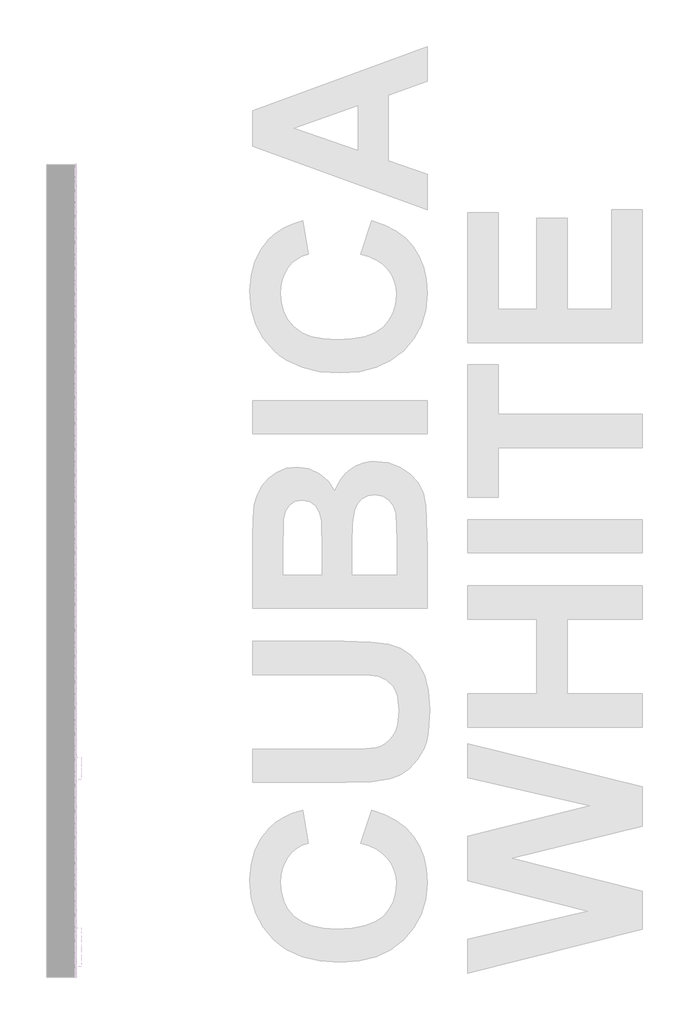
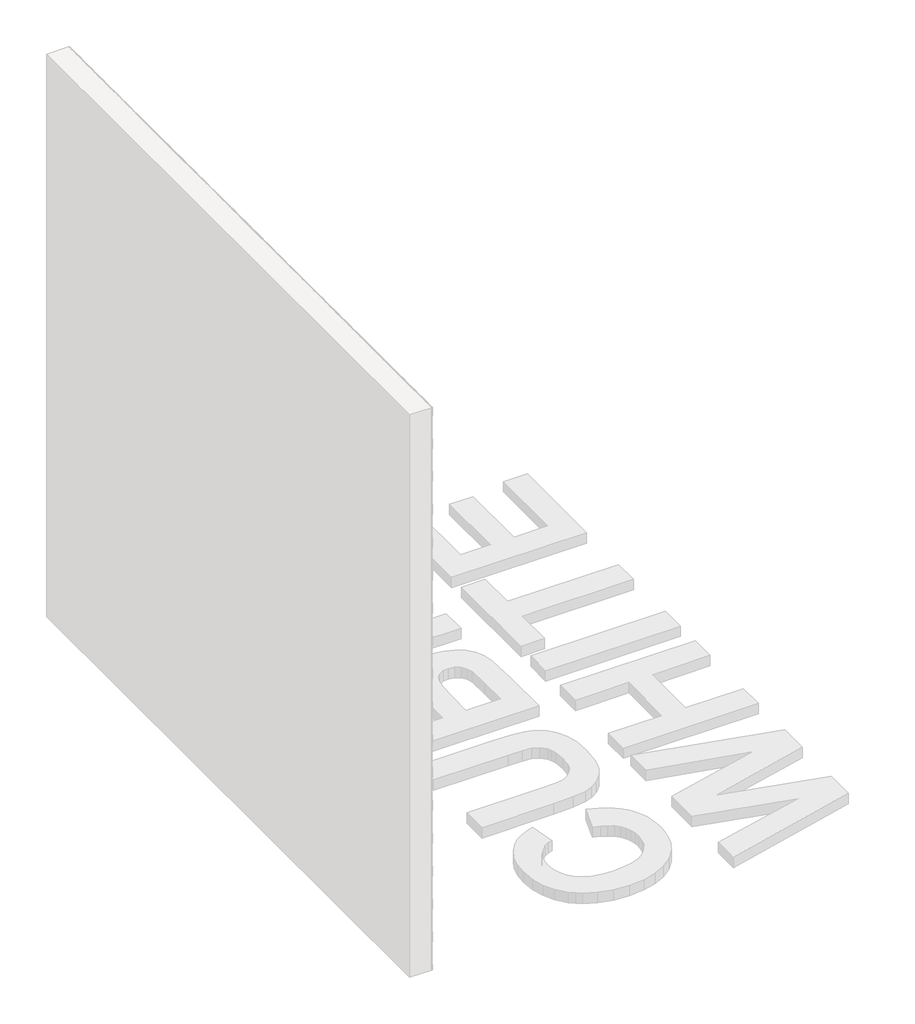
# One storey, part 118 of 121: 144 proxies.
"""IFC4 building model written with IfcOpenShell, lengths in millimetres."""

from ifc_helpers import new_model, si_unit, origin, place, context, project, spatial, transform, mapped, element, save
from components import generic_models_b2b2c5c1, generic_models_9bf73f6f, generic_models_5d175859, generic_models_0bb79e7c

model = new_model("IFC4")

# Units and contexts
model_context = context("Model", 3, world=origin())
ifc_project = project(units=[si_unit("LENGTHUNIT", "METRE", prefix="MILLI")], contexts=[model_context])

# Site, building, storey
site = spatial("IfcSite", under=ifc_project)
building = spatial("IfcBuilding", under=site)
storey = spatial("IfcBuildingStorey", under=building, Name="PORTOBELLO - SHOWROOM", Elevation=0.0)

# Proxies
placement = place(None, origin())
generic_models_shape = generic_models_b2b2c5c1(model_context)
element("IfcBuildingElementProxy", 1, Name="PBSHOP - CUBICA WHITE 4,8X8,3 : CUBICA WHITE - POSIÇÃO 01", ObjectType="PBSHOP - CUBICA WHITE 4,8X8,3 : CUBICA WHITE - POSIÇÃO 01", at=placement, inside=storey, context=model_context, shape_type="MappedRepresentation", body=[
    mapped(generic_models_shape, transform((150369.5341846, 21058.7527651, 1697.0495727), x_axis=(0.0, 1.0, 0.0), y_axis=(0.0, 0.0, 1.0), z_axis=(1.0, 0.0, 0.0))),
])
element("IfcBuildingElementProxy", 2, Name="PBSHOP - CUBICA WHITE 4,8X8,3 : CUBICA WHITE - POSIÇÃO 01", ObjectType="PBSHOP - CUBICA WHITE 4,8X8,3 : CUBICA WHITE - POSIÇÃO 01", at=placement, inside=storey, context=model_context, shape_type="MappedRepresentation", body=[
    mapped(generic_models_shape, transform((150369.5341846, 21149.5920343, 1697.0495727), x_axis=(0.0, 1.0, 0.0), y_axis=(0.0, 0.0, 1.0), z_axis=(1.0, 0.0, 0.0))),
])
element("IfcBuildingElementProxy", 3, Name="PBSHOP - CUBICA WHITE 4,8X8,3 : CUBICA WHITE - POSIÇÃO 01", ObjectType="PBSHOP - CUBICA WHITE 4,8X8,3 : CUBICA WHITE - POSIÇÃO 01", at=placement, inside=storey, context=model_context, shape_type="MappedRepresentation", body=[
    mapped(generic_models_shape, transform((150369.5341846, 21240.4313036, 1697.0495727), x_axis=(0.0, 1.0, 0.0), y_axis=(0.0, 0.0, 1.0), z_axis=(1.0, 0.0, 0.0))),
])
element("IfcBuildingElementProxy", 4, Name="PBSHOP - CUBICA WHITE 4,8X8,3 : CUBICA WHITE - POSIÇÃO 01", ObjectType="PBSHOP - CUBICA WHITE 4,8X8,3 : CUBICA WHITE - POSIÇÃO 01", at=placement, inside=storey, context=model_context, shape_type="MappedRepresentation", body=[
    mapped(generic_models_shape, transform((150369.5341846, 21331.2705728, 1697.0495727), x_axis=(0.0, 1.0, 0.0), y_axis=(0.0, 0.0, 1.0), z_axis=(1.0, 0.0, 0.0))),
])
element("IfcBuildingElementProxy", 5, Name="PBSHOP - CUBICA WHITE 4,8X8,3 : CUBICA WHITE - POSIÇÃO 01", ObjectType="PBSHOP - CUBICA WHITE 4,8X8,3 : CUBICA WHITE - POSIÇÃO 01", at=placement, inside=storey, context=model_context, shape_type="MappedRepresentation", body=[
    mapped(generic_models_shape, transform((150369.5341846, 21422.109842, 1697.0495727), x_axis=(0.0, 1.0, 0.0), y_axis=(0.0, 0.0, 1.0), z_axis=(1.0, 0.0, 0.0))),
])
element("IfcBuildingElementProxy", 6, Name="PBSHOP - CUBICA WHITE 4,8X8,3 : CUBICA WHITE - POSIÇÃO 01", ObjectType="PBSHOP - CUBICA WHITE 4,8X8,3 : CUBICA WHITE - POSIÇÃO 01", at=placement, inside=storey, context=model_context, shape_type="MappedRepresentation", body=[
    mapped(generic_models_shape, transform((150369.5341846, 21512.9491113, 1697.0495727), x_axis=(0.0, 1.0, 0.0), y_axis=(0.0, 0.0, 1.0), z_axis=(1.0, 0.0, 0.0))),
])
element("IfcBuildingElementProxy", 7, Name="PBSHOP - CUBICA WHITE 4,8X8,3 : CUBICA WHITE - POSIÇÃO 01", ObjectType="PBSHOP - CUBICA WHITE 4,8X8,3 : CUBICA WHITE - POSIÇÃO 01", at=placement, inside=storey, context=model_context, shape_type="MappedRepresentation", body=[
    mapped(generic_models_shape, transform((150369.5341846, 21603.7883805, 1697.0495727), x_axis=(0.0, 1.0, 0.0), y_axis=(0.0, 0.0, 1.0), z_axis=(1.0, 0.0, 0.0))),
])
element("IfcBuildingElementProxy", 8, Name="PBSHOP - CUBICA WHITE 4,8X8,3 : CUBICA WHITE - POSIÇÃO 01", ObjectType="PBSHOP - CUBICA WHITE 4,8X8,3 : CUBICA WHITE - POSIÇÃO 01", at=placement, inside=storey, context=model_context, shape_type="MappedRepresentation", body=[
    mapped(generic_models_shape, transform((150369.5341846, 21694.6276498, 1697.0495727), x_axis=(0.0, 1.0, 0.0), y_axis=(0.0, 0.0, 1.0), z_axis=(1.0, 0.0, 0.0))),
])
element("IfcBuildingElementProxy", 9, Name="PBSHOP - CUBICA WHITE 4,8X8,3 : CUBICA WHITE - POSIÇÃO 01", ObjectType="PBSHOP - CUBICA WHITE 4,8X8,3 : CUBICA WHITE - POSIÇÃO 01", at=placement, inside=storey, context=model_context, shape_type="MappedRepresentation", body=[
    mapped(generic_models_shape, transform((150369.5341846, 21785.466919, 1697.0495727), x_axis=(0.0, 1.0, 0.0), y_axis=(0.0, 0.0, 1.0), z_axis=(1.0, 0.0, 0.0))),
])
element("IfcBuildingElementProxy", 10, Name="PBSHOP - CUBICA WHITE 4,8X8,3 : CUBICA WHITE - POSIÇÃO 01", ObjectType="PBSHOP - CUBICA WHITE 4,8X8,3 : CUBICA WHITE - POSIÇÃO 01", at=placement, inside=storey, context=model_context, shape_type="MappedRepresentation", body=[
    mapped(generic_models_shape, transform((150369.5341846, 21876.3061883, 1697.0495727), x_axis=(0.0, 1.0, 0.0), y_axis=(0.0, 0.0, 1.0), z_axis=(1.0, 0.0, 0.0))),
])
element("IfcBuildingElementProxy", 11, Name="PBSHOP - CUBICA WHITE 4,8X8,3 : CUBICA WHITE - POSIÇÃO 01", ObjectType="PBSHOP - CUBICA WHITE 4,8X8,3 : CUBICA WHITE - POSIÇÃO 01", at=placement, inside=storey, context=model_context, shape_type="MappedRepresentation", body=[
    mapped(generic_models_shape, transform((150369.5341846, 21967.1454575, 1697.0495727), x_axis=(0.0, 1.0, 0.0), y_axis=(0.0, 0.0, 1.0), z_axis=(1.0, 0.0, 0.0))),
])
element("IfcBuildingElementProxy", 12, Name="PBSHOP - CUBICA WHITE 4,8X8,3 : CUBICA WHITE - POSIÇÃO 01", ObjectType="PBSHOP - CUBICA WHITE 4,8X8,3 : CUBICA WHITE - POSIÇÃO 01", at=placement, inside=storey, context=model_context, shape_type="MappedRepresentation", body=[
    mapped(generic_models_shape, transform((150369.5341846, 21013.3331304, 1775.984211), x_axis=(0.0, 1.0, 0.0), y_axis=(0.0, 0.0, 1.0), z_axis=(1.0, 0.0, 0.0))),
])
element("IfcBuildingElementProxy", 13, Name="PBSHOP - CUBICA WHITE 4,8X8,3 : CUBICA WHITE - POSIÇÃO 01", ObjectType="PBSHOP - CUBICA WHITE 4,8X8,3 : CUBICA WHITE - POSIÇÃO 01", at=placement, inside=storey, context=model_context, shape_type="MappedRepresentation", body=[
    mapped(generic_models_shape, transform((150369.5341846, 21104.1723997, 1775.984211), x_axis=(0.0, 1.0, 0.0), y_axis=(0.0, 0.0, 1.0), z_axis=(1.0, 0.0, 0.0))),
])
element("IfcBuildingElementProxy", 14, Name="PBSHOP - CUBICA WHITE 4,8X8,3 : CUBICA WHITE - POSIÇÃO 01", ObjectType="PBSHOP - CUBICA WHITE 4,8X8,3 : CUBICA WHITE - POSIÇÃO 01", at=placement, inside=storey, context=model_context, shape_type="MappedRepresentation", body=[
    mapped(generic_models_shape, transform((150369.5341846, 21195.0116689, 1775.984211), x_axis=(0.0, 1.0, 0.0), y_axis=(0.0, 0.0, 1.0), z_axis=(1.0, 0.0, 0.0))),
])
element("IfcBuildingElementProxy", 15, Name="PBSHOP - CUBICA WHITE 4,8X8,3 : CUBICA WHITE - POSIÇÃO 01", ObjectType="PBSHOP - CUBICA WHITE 4,8X8,3 : CUBICA WHITE - POSIÇÃO 01", at=placement, inside=storey, context=model_context, shape_type="MappedRepresentation", body=[
    mapped(generic_models_shape, transform((150369.5341846, 21285.8509382, 1775.984211), x_axis=(0.0, 1.0, 0.0), y_axis=(0.0, 0.0, 1.0), z_axis=(1.0, 0.0, 0.0))),
])
element("IfcBuildingElementProxy", 16, Name="PBSHOP - CUBICA WHITE 4,8X8,3 : CUBICA WHITE - POSIÇÃO 01", ObjectType="PBSHOP - CUBICA WHITE 4,8X8,3 : CUBICA WHITE - POSIÇÃO 01", at=placement, inside=storey, context=model_context, shape_type="MappedRepresentation", body=[
    mapped(generic_models_shape, transform((150369.5341846, 21376.6902074, 1775.984211), x_axis=(0.0, 1.0, 0.0), y_axis=(0.0, 0.0, 1.0), z_axis=(1.0, 0.0, 0.0))),
])
element("IfcBuildingElementProxy", 17, Name="PBSHOP - CUBICA WHITE 4,8X8,3 : CUBICA WHITE - POSIÇÃO 01", ObjectType="PBSHOP - CUBICA WHITE 4,8X8,3 : CUBICA WHITE - POSIÇÃO 01", at=placement, inside=storey, context=model_context, shape_type="MappedRepresentation", body=[
    mapped(generic_models_shape, transform((150369.5341846, 21467.5294767, 1775.984211), x_axis=(0.0, 1.0, 0.0), y_axis=(0.0, 0.0, 1.0), z_axis=(1.0, 0.0, 0.0))),
])
element("IfcBuildingElementProxy", 18, Name="PBSHOP - CUBICA WHITE 4,8X8,3 : CUBICA WHITE - POSIÇÃO 01", ObjectType="PBSHOP - CUBICA WHITE 4,8X8,3 : CUBICA WHITE - POSIÇÃO 01", at=placement, inside=storey, context=model_context, shape_type="MappedRepresentation", body=[
    mapped(generic_models_shape, transform((150369.5341846, 21558.3687459, 1775.984211), x_axis=(0.0, 1.0, 0.0), y_axis=(0.0, 0.0, 1.0), z_axis=(1.0, 0.0, 0.0))),
])
element("IfcBuildingElementProxy", 19, Name="PBSHOP - CUBICA WHITE 4,8X8,3 : CUBICA WHITE - POSIÇÃO 01", ObjectType="PBSHOP - CUBICA WHITE 4,8X8,3 : CUBICA WHITE - POSIÇÃO 01", at=placement, inside=storey, context=model_context, shape_type="MappedRepresentation", body=[
    mapped(generic_models_shape, transform((150369.5341846, 21649.2080152, 1775.984211), x_axis=(0.0, 1.0, 0.0), y_axis=(0.0, 0.0, 1.0), z_axis=(1.0, 0.0, 0.0))),
])
element("IfcBuildingElementProxy", 20, Name="PBSHOP - CUBICA WHITE 4,8X8,3 : CUBICA WHITE - POSIÇÃO 01", ObjectType="PBSHOP - CUBICA WHITE 4,8X8,3 : CUBICA WHITE - POSIÇÃO 01", at=placement, inside=storey, context=model_context, shape_type="MappedRepresentation", body=[
    mapped(generic_models_shape, transform((150369.5341846, 21740.0472844, 1775.984211), x_axis=(0.0, 1.0, 0.0), y_axis=(0.0, 0.0, 1.0), z_axis=(1.0, 0.0, 0.0))),
])
element("IfcBuildingElementProxy", 21, Name="PBSHOP - CUBICA WHITE 4,8X8,3 : CUBICA WHITE - POSIÇÃO 01", ObjectType="PBSHOP - CUBICA WHITE 4,8X8,3 : CUBICA WHITE - POSIÇÃO 01", at=placement, inside=storey, context=model_context, shape_type="MappedRepresentation", body=[
    mapped(generic_models_shape, transform((150369.5341846, 21830.8865536, 1775.984211), x_axis=(0.0, 1.0, 0.0), y_axis=(0.0, 0.0, 1.0), z_axis=(1.0, 0.0, 0.0))),
])
element("IfcBuildingElementProxy", 22, Name="PBSHOP - CUBICA WHITE 4,8X8,3 : CUBICA WHITE - POSIÇÃO 01", ObjectType="PBSHOP - CUBICA WHITE 4,8X8,3 : CUBICA WHITE - POSIÇÃO 01", at=placement, inside=storey, context=model_context, shape_type="MappedRepresentation", body=[
    mapped(generic_models_shape, transform((150369.5341846, 21921.7258229, 1775.984211), x_axis=(0.0, 1.0, 0.0), y_axis=(0.0, 0.0, 1.0), z_axis=(1.0, 0.0, 0.0))),
])
element("IfcBuildingElementProxy", 23, Name="PBSHOP - CUBICA WHITE 4,8X8,3 : CUBICA WHITE - POSIÇÃO 01", ObjectType="PBSHOP - CUBICA WHITE 4,8X8,3 : CUBICA WHITE - POSIÇÃO 01", at=placement, inside=storey, context=model_context, shape_type="MappedRepresentation", body=[
    mapped(generic_models_shape, transform((150369.5341846, 21058.7527651, 1854.9188494), x_axis=(0.0, 1.0, 0.0), y_axis=(0.0, 0.0, 1.0), z_axis=(1.0, 0.0, 0.0))),
])
element("IfcBuildingElementProxy", 24, Name="PBSHOP - CUBICA WHITE 4,8X8,3 : CUBICA WHITE - POSIÇÃO 01", ObjectType="PBSHOP - CUBICA WHITE 4,8X8,3 : CUBICA WHITE - POSIÇÃO 01", at=placement, inside=storey, context=model_context, shape_type="MappedRepresentation", body=[
    mapped(generic_models_shape, transform((150369.5341846, 21149.5920343, 1854.9188494), x_axis=(0.0, 1.0, 0.0), y_axis=(0.0, 0.0, 1.0), z_axis=(1.0, 0.0, 0.0))),
])
element("IfcBuildingElementProxy", 25, Name="PBSHOP - CUBICA WHITE 4,8X8,3 : CUBICA WHITE - POSIÇÃO 01", ObjectType="PBSHOP - CUBICA WHITE 4,8X8,3 : CUBICA WHITE - POSIÇÃO 01", at=placement, inside=storey, context=model_context, shape_type="MappedRepresentation", body=[
    mapped(generic_models_shape, transform((150369.5341846, 21240.4313036, 1854.9188494), x_axis=(0.0, 1.0, 0.0), y_axis=(0.0, 0.0, 1.0), z_axis=(1.0, 0.0, 0.0))),
])
element("IfcBuildingElementProxy", 26, Name="PBSHOP - CUBICA WHITE 4,8X8,3 : CUBICA WHITE - POSIÇÃO 01", ObjectType="PBSHOP - CUBICA WHITE 4,8X8,3 : CUBICA WHITE - POSIÇÃO 01", at=placement, inside=storey, context=model_context, shape_type="MappedRepresentation", body=[
    mapped(generic_models_shape, transform((150369.5341846, 21331.2705728, 1854.9188494), x_axis=(0.0, 1.0, 0.0), y_axis=(0.0, 0.0, 1.0), z_axis=(1.0, 0.0, 0.0))),
])
element("IfcBuildingElementProxy", 27, Name="PBSHOP - CUBICA WHITE 4,8X8,3 : CUBICA WHITE - POSIÇÃO 01", ObjectType="PBSHOP - CUBICA WHITE 4,8X8,3 : CUBICA WHITE - POSIÇÃO 01", at=placement, inside=storey, context=model_context, shape_type="MappedRepresentation", body=[
    mapped(generic_models_shape, transform((150369.5341846, 21422.109842, 1854.9188494), x_axis=(0.0, 1.0, 0.0), y_axis=(0.0, 0.0, 1.0), z_axis=(1.0, 0.0, 0.0))),
])
element("IfcBuildingElementProxy", 28, Name="PBSHOP - CUBICA WHITE 4,8X8,3 : CUBICA WHITE - POSIÇÃO 01", ObjectType="PBSHOP - CUBICA WHITE 4,8X8,3 : CUBICA WHITE - POSIÇÃO 01", at=placement, inside=storey, context=model_context, shape_type="MappedRepresentation", body=[
    mapped(generic_models_shape, transform((150369.5341846, 21512.9491113, 1854.9188494), x_axis=(0.0, 1.0, 0.0), y_axis=(0.0, 0.0, 1.0), z_axis=(1.0, 0.0, 0.0))),
])
element("IfcBuildingElementProxy", 29, Name="PBSHOP - CUBICA WHITE 4,8X8,3 : CUBICA WHITE - POSIÇÃO 01", ObjectType="PBSHOP - CUBICA WHITE 4,8X8,3 : CUBICA WHITE - POSIÇÃO 01", at=placement, inside=storey, context=model_context, shape_type="MappedRepresentation", body=[
    mapped(generic_models_shape, transform((150369.5341846, 21603.7883805, 1854.9188494), x_axis=(0.0, 1.0, 0.0), y_axis=(0.0, 0.0, 1.0), z_axis=(1.0, 0.0, 0.0))),
])
element("IfcBuildingElementProxy", 30, Name="PBSHOP - CUBICA WHITE 4,8X8,3 : CUBICA WHITE - POSIÇÃO 01", ObjectType="PBSHOP - CUBICA WHITE 4,8X8,3 : CUBICA WHITE - POSIÇÃO 01", at=placement, inside=storey, context=model_context, shape_type="MappedRepresentation", body=[
    mapped(generic_models_shape, transform((150369.5341846, 21694.6276498, 1854.9188494), x_axis=(0.0, 1.0, 0.0), y_axis=(0.0, 0.0, 1.0), z_axis=(1.0, 0.0, 0.0))),
])
element("IfcBuildingElementProxy", 31, Name="PBSHOP - CUBICA WHITE 4,8X8,3 : CUBICA WHITE - POSIÇÃO 01", ObjectType="PBSHOP - CUBICA WHITE 4,8X8,3 : CUBICA WHITE - POSIÇÃO 01", at=placement, inside=storey, context=model_context, shape_type="MappedRepresentation", body=[
    mapped(generic_models_shape, transform((150369.5341846, 21785.466919, 1854.9188494), x_axis=(0.0, 1.0, 0.0), y_axis=(0.0, 0.0, 1.0), z_axis=(1.0, 0.0, 0.0))),
])
element("IfcBuildingElementProxy", 32, Name="PBSHOP - CUBICA WHITE 4,8X8,3 : CUBICA WHITE - POSIÇÃO 01", ObjectType="PBSHOP - CUBICA WHITE 4,8X8,3 : CUBICA WHITE - POSIÇÃO 01", at=placement, inside=storey, context=model_context, shape_type="MappedRepresentation", body=[
    mapped(generic_models_shape, transform((150369.5341846, 21876.3061883, 1854.9188494), x_axis=(0.0, 1.0, 0.0), y_axis=(0.0, 0.0, 1.0), z_axis=(1.0, 0.0, 0.0))),
])
element("IfcBuildingElementProxy", 33, Name="PBSHOP - CUBICA WHITE 4,8X8,3 : CUBICA WHITE - POSIÇÃO 01", ObjectType="PBSHOP - CUBICA WHITE 4,8X8,3 : CUBICA WHITE - POSIÇÃO 01", at=placement, inside=storey, context=model_context, shape_type="MappedRepresentation", body=[
    mapped(generic_models_shape, transform((150369.5341846, 21967.1454575, 1854.9188494), x_axis=(0.0, 1.0, 0.0), y_axis=(0.0, 0.0, 1.0), z_axis=(1.0, 0.0, 0.0))),
])
element("IfcBuildingElementProxy", 34, Name="PBSHOP - CUBICA WHITE 4,8X8,3 : CUBICA WHITE - POSIÇÃO 01", ObjectType="PBSHOP - CUBICA WHITE 4,8X8,3 : CUBICA WHITE - POSIÇÃO 01", at=placement, inside=storey, context=model_context, shape_type="MappedRepresentation", body=[
    mapped(generic_models_shape, transform((150369.5341846, 21013.3331304, 1933.8534878), x_axis=(0.0, 1.0, 0.0), y_axis=(0.0, 0.0, 1.0), z_axis=(1.0, 0.0, 0.0))),
])
element("IfcBuildingElementProxy", 35, Name="PBSHOP - CUBICA WHITE 4,8X8,3 : CUBICA WHITE - POSIÇÃO 01", ObjectType="PBSHOP - CUBICA WHITE 4,8X8,3 : CUBICA WHITE - POSIÇÃO 01", at=placement, inside=storey, context=model_context, shape_type="MappedRepresentation", body=[
    mapped(generic_models_shape, transform((150369.5341846, 21104.1723997, 1933.8534878), x_axis=(0.0, 1.0, 0.0), y_axis=(0.0, 0.0, 1.0), z_axis=(1.0, 0.0, 0.0))),
])
element("IfcBuildingElementProxy", 36, Name="PBSHOP - CUBICA WHITE 4,8X8,3 : CUBICA WHITE - POSIÇÃO 01", ObjectType="PBSHOP - CUBICA WHITE 4,8X8,3 : CUBICA WHITE - POSIÇÃO 01", at=placement, inside=storey, context=model_context, shape_type="MappedRepresentation", body=[
    mapped(generic_models_shape, transform((150369.5341846, 21195.0116689, 1933.8534878), x_axis=(0.0, 1.0, 0.0), y_axis=(0.0, 0.0, 1.0), z_axis=(1.0, 0.0, 0.0))),
])
element("IfcBuildingElementProxy", 37, Name="PBSHOP - CUBICA WHITE 4,8X8,3 : CUBICA WHITE - POSIÇÃO 01", ObjectType="PBSHOP - CUBICA WHITE 4,8X8,3 : CUBICA WHITE - POSIÇÃO 01", at=placement, inside=storey, context=model_context, shape_type="MappedRepresentation", body=[
    mapped(generic_models_shape, transform((150369.5341846, 21285.8509382, 1933.8534878), x_axis=(0.0, 1.0, 0.0), y_axis=(0.0, 0.0, 1.0), z_axis=(1.0, 0.0, 0.0))),
])
element("IfcBuildingElementProxy", 38, Name="PBSHOP - CUBICA WHITE 4,8X8,3 : CUBICA WHITE - POSIÇÃO 01", ObjectType="PBSHOP - CUBICA WHITE 4,8X8,3 : CUBICA WHITE - POSIÇÃO 01", at=placement, inside=storey, context=model_context, shape_type="MappedRepresentation", body=[
    mapped(generic_models_shape, transform((150369.5341846, 21376.6902074, 1933.8534878), x_axis=(0.0, 1.0, 0.0), y_axis=(0.0, 0.0, 1.0), z_axis=(1.0, 0.0, 0.0))),
])
element("IfcBuildingElementProxy", 39, Name="PBSHOP - CUBICA WHITE 4,8X8,3 : CUBICA WHITE - POSIÇÃO 01", ObjectType="PBSHOP - CUBICA WHITE 4,8X8,3 : CUBICA WHITE - POSIÇÃO 01", at=placement, inside=storey, context=model_context, shape_type="MappedRepresentation", body=[
    mapped(generic_models_shape, transform((150369.5341846, 21467.5294767, 1933.8534878), x_axis=(0.0, 1.0, 0.0), y_axis=(0.0, 0.0, 1.0), z_axis=(1.0, 0.0, 0.0))),
])
element("IfcBuildingElementProxy", 40, Name="PBSHOP - CUBICA WHITE 4,8X8,3 : CUBICA WHITE - POSIÇÃO 01", ObjectType="PBSHOP - CUBICA WHITE 4,8X8,3 : CUBICA WHITE - POSIÇÃO 01", at=placement, inside=storey, context=model_context, shape_type="MappedRepresentation", body=[
    mapped(generic_models_shape, transform((150369.5341846, 21558.3687459, 1933.8534878), x_axis=(0.0, 1.0, 0.0), y_axis=(0.0, 0.0, 1.0), z_axis=(1.0, 0.0, 0.0))),
])
element("IfcBuildingElementProxy", 41, Name="PBSHOP - CUBICA WHITE 4,8X8,3 : CUBICA WHITE - POSIÇÃO 01", ObjectType="PBSHOP - CUBICA WHITE 4,8X8,3 : CUBICA WHITE - POSIÇÃO 01", at=placement, inside=storey, context=model_context, shape_type="MappedRepresentation", body=[
    mapped(generic_models_shape, transform((150369.5341846, 21649.2080152, 1933.8534878), x_axis=(0.0, 1.0, 0.0), y_axis=(0.0, 0.0, 1.0), z_axis=(1.0, 0.0, 0.0))),
])
element("IfcBuildingElementProxy", 42, Name="PBSHOP - CUBICA WHITE 4,8X8,3 : CUBICA WHITE - POSIÇÃO 01", ObjectType="PBSHOP - CUBICA WHITE 4,8X8,3 : CUBICA WHITE - POSIÇÃO 01", at=placement, inside=storey, context=model_context, shape_type="MappedRepresentation", body=[
    mapped(generic_models_shape, transform((150369.5341846, 21740.0472844, 1933.8534878), x_axis=(0.0, 1.0, 0.0), y_axis=(0.0, 0.0, 1.0), z_axis=(1.0, 0.0, 0.0))),
])
element("IfcBuildingElementProxy", 43, Name="PBSHOP - CUBICA WHITE 4,8X8,3 : CUBICA WHITE - POSIÇÃO 01", ObjectType="PBSHOP - CUBICA WHITE 4,8X8,3 : CUBICA WHITE - POSIÇÃO 01", at=placement, inside=storey, context=model_context, shape_type="MappedRepresentation", body=[
    mapped(generic_models_shape, transform((150369.5341846, 21830.8865536, 1933.8534878), x_axis=(0.0, 1.0, 0.0), y_axis=(0.0, 0.0, 1.0), z_axis=(1.0, 0.0, 0.0))),
])
element("IfcBuildingElementProxy", 44, Name="PBSHOP - CUBICA WHITE 4,8X8,3 : CUBICA WHITE - POSIÇÃO 01", ObjectType="PBSHOP - CUBICA WHITE 4,8X8,3 : CUBICA WHITE - POSIÇÃO 01", at=placement, inside=storey, context=model_context, shape_type="MappedRepresentation", body=[
    mapped(generic_models_shape, transform((150369.5341846, 21921.7258229, 1933.8534878), x_axis=(0.0, 1.0, 0.0), y_axis=(0.0, 0.0, 1.0), z_axis=(1.0, 0.0, 0.0))),
])
element("IfcBuildingElementProxy", 45, Name="PBSHOP - CUBICA WHITE 4,8X8,3 : CUBICA WHITE - POSIÇÃO 01", ObjectType="PBSHOP - CUBICA WHITE 4,8X8,3 : CUBICA WHITE - POSIÇÃO 01", at=placement, inside=storey, context=model_context, shape_type="MappedRepresentation", body=[
    mapped(generic_models_shape, transform((150369.5341846, 21058.7527651, 2012.7881262), x_axis=(0.0, 1.0, 0.0), y_axis=(0.0, 0.0, 1.0), z_axis=(1.0, 0.0, 0.0))),
])
element("IfcBuildingElementProxy", 46, Name="PBSHOP - CUBICA WHITE 4,8X8,3 : CUBICA WHITE - POSIÇÃO 01", ObjectType="PBSHOP - CUBICA WHITE 4,8X8,3 : CUBICA WHITE - POSIÇÃO 01", at=placement, inside=storey, context=model_context, shape_type="MappedRepresentation", body=[
    mapped(generic_models_shape, transform((150369.5341846, 21149.5920343, 2012.7881262), x_axis=(0.0, 1.0, 0.0), y_axis=(0.0, 0.0, 1.0), z_axis=(1.0, 0.0, 0.0))),
])
element("IfcBuildingElementProxy", 47, Name="PBSHOP - CUBICA WHITE 4,8X8,3 : CUBICA WHITE - POSIÇÃO 01", ObjectType="PBSHOP - CUBICA WHITE 4,8X8,3 : CUBICA WHITE - POSIÇÃO 01", at=placement, inside=storey, context=model_context, shape_type="MappedRepresentation", body=[
    mapped(generic_models_shape, transform((150369.5341846, 21240.4313036, 2012.7881262), x_axis=(0.0, 1.0, 0.0), y_axis=(0.0, 0.0, 1.0), z_axis=(1.0, 0.0, 0.0))),
])
element("IfcBuildingElementProxy", 48, Name="PBSHOP - CUBICA WHITE 4,8X8,3 : CUBICA WHITE - POSIÇÃO 01", ObjectType="PBSHOP - CUBICA WHITE 4,8X8,3 : CUBICA WHITE - POSIÇÃO 01", at=placement, inside=storey, context=model_context, shape_type="MappedRepresentation", body=[
    mapped(generic_models_shape, transform((150369.5341846, 21331.2705728, 2012.7881262), x_axis=(0.0, 1.0, 0.0), y_axis=(0.0, 0.0, 1.0), z_axis=(1.0, 0.0, 0.0))),
])
generic_models_2_shape = generic_models_9bf73f6f(model_context)
element("IfcBuildingElementProxy", 49, Name="PBSHOP - CUBICA WHITE 4,8X8,3 : CUBICA WHITE - POSIÇÃO 03", ObjectType="PBSHOP - CUBICA WHITE 4,8X8,3 : CUBICA WHITE - POSIÇÃO 03", at=placement, inside=storey, context=model_context, shape_type="MappedRepresentation", body=[
    mapped(generic_models_2_shape, transform((150369.5341846, 21717.3396263, 1578.6064047), x_axis=(0.0, 1.0, 0.0), y_axis=(0.0, 0.0, 1.0), z_axis=(1.0, 0.0, 0.0))),
])
element("IfcBuildingElementProxy", 50, Name="PBSHOP - CUBICA WHITE 4,8X8,3 : CUBICA WHITE - POSIÇÃO 03", ObjectType="PBSHOP - CUBICA WHITE 4,8X8,3 : CUBICA WHITE - POSIÇÃO 03", at=placement, inside=storey, context=model_context, shape_type="MappedRepresentation", body=[
    mapped(generic_models_2_shape, transform((150369.5341846, 21808.1788955, 1578.6064047), x_axis=(0.0, 1.0, 0.0), y_axis=(0.0, 0.0, 1.0), z_axis=(1.0, 0.0, 0.0))),
])
element("IfcBuildingElementProxy", 51, Name="PBSHOP - CUBICA WHITE 4,8X8,3 : CUBICA WHITE - POSIÇÃO 03", ObjectType="PBSHOP - CUBICA WHITE 4,8X8,3 : CUBICA WHITE - POSIÇÃO 03", at=placement, inside=storey, context=model_context, shape_type="MappedRepresentation", body=[
    mapped(generic_models_2_shape, transform((150369.5341846, 21899.0181647, 1578.6064047), x_axis=(0.0, 1.0, 0.0), y_axis=(0.0, 0.0, 1.0), z_axis=(1.0, 0.0, 0.0))),
])
element("IfcBuildingElementProxy", 52, Name="PBSHOP - CUBICA WHITE 4,8X8,3 : CUBICA WHITE - POSIÇÃO 03", ObjectType="PBSHOP - CUBICA WHITE 4,8X8,3 : CUBICA WHITE - POSIÇÃO 03", at=placement, inside=storey, context=model_context, shape_type="MappedRepresentation", body=[
    mapped(generic_models_2_shape, transform((150369.5341846, 21036.0451069, 1657.5410431), x_axis=(0.0, 1.0, 0.0), y_axis=(0.0, 0.0, 1.0), z_axis=(1.0, 0.0, 0.0))),
])
element("IfcBuildingElementProxy", 53, Name="PBSHOP - CUBICA WHITE 4,8X8,3 : CUBICA WHITE - POSIÇÃO 03", ObjectType="PBSHOP - CUBICA WHITE 4,8X8,3 : CUBICA WHITE - POSIÇÃO 03", at=placement, inside=storey, context=model_context, shape_type="MappedRepresentation", body=[
    mapped(generic_models_2_shape, transform((150369.5341846, 21126.8843762, 1657.5410431), x_axis=(0.0, 1.0, 0.0), y_axis=(0.0, 0.0, 1.0), z_axis=(1.0, 0.0, 0.0))),
])
element("IfcBuildingElementProxy", 54, Name="PBSHOP - CUBICA WHITE 4,8X8,3 : CUBICA WHITE - POSIÇÃO 03", ObjectType="PBSHOP - CUBICA WHITE 4,8X8,3 : CUBICA WHITE - POSIÇÃO 03", at=placement, inside=storey, context=model_context, shape_type="MappedRepresentation", body=[
    mapped(generic_models_2_shape, transform((150369.5341846, 21217.7236454, 1657.5410431), x_axis=(0.0, 1.0, 0.0), y_axis=(0.0, 0.0, 1.0), z_axis=(1.0, 0.0, 0.0))),
])
element("IfcBuildingElementProxy", 55, Name="PBSHOP - CUBICA WHITE 4,8X8,3 : CUBICA WHITE - POSIÇÃO 03", ObjectType="PBSHOP - CUBICA WHITE 4,8X8,3 : CUBICA WHITE - POSIÇÃO 03", at=placement, inside=storey, context=model_context, shape_type="MappedRepresentation", body=[
    mapped(generic_models_2_shape, transform((150369.5341846, 21308.5629147, 1657.5410431), x_axis=(0.0, 1.0, 0.0), y_axis=(0.0, 0.0, 1.0), z_axis=(1.0, 0.0, 0.0))),
])
element("IfcBuildingElementProxy", 56, Name="PBSHOP - CUBICA WHITE 4,8X8,3 : CUBICA WHITE - POSIÇÃO 03", ObjectType="PBSHOP - CUBICA WHITE 4,8X8,3 : CUBICA WHITE - POSIÇÃO 03", at=placement, inside=storey, context=model_context, shape_type="MappedRepresentation", body=[
    mapped(generic_models_2_shape, transform((150369.5341846, 21399.4021839, 1657.5410431), x_axis=(0.0, 1.0, 0.0), y_axis=(0.0, 0.0, 1.0), z_axis=(1.0, 0.0, 0.0))),
])
element("IfcBuildingElementProxy", 57, Name="PBSHOP - CUBICA WHITE 4,8X8,3 : CUBICA WHITE - POSIÇÃO 03", ObjectType="PBSHOP - CUBICA WHITE 4,8X8,3 : CUBICA WHITE - POSIÇÃO 03", at=placement, inside=storey, context=model_context, shape_type="MappedRepresentation", body=[
    mapped(generic_models_2_shape, transform((150369.5341846, 21490.2414531, 1657.5410431), x_axis=(0.0, 1.0, 0.0), y_axis=(0.0, 0.0, 1.0), z_axis=(1.0, 0.0, 0.0))),
])
element("IfcBuildingElementProxy", 58, Name="PBSHOP - CUBICA WHITE 4,8X8,3 : CUBICA WHITE - POSIÇÃO 03", ObjectType="PBSHOP - CUBICA WHITE 4,8X8,3 : CUBICA WHITE - POSIÇÃO 03", at=placement, inside=storey, context=model_context, shape_type="MappedRepresentation", body=[
    mapped(generic_models_2_shape, transform((150369.5341846, 21581.0807224, 1657.5410431), x_axis=(0.0, 1.0, 0.0), y_axis=(0.0, 0.0, 1.0), z_axis=(1.0, 0.0, 0.0))),
])
element("IfcBuildingElementProxy", 59, Name="PBSHOP - CUBICA WHITE 4,8X8,3 : CUBICA WHITE - POSIÇÃO 03", ObjectType="PBSHOP - CUBICA WHITE 4,8X8,3 : CUBICA WHITE - POSIÇÃO 03", at=placement, inside=storey, context=model_context, shape_type="MappedRepresentation", body=[
    mapped(generic_models_2_shape, transform((150369.5341846, 21671.9199916, 1657.5410431), x_axis=(0.0, 1.0, 0.0), y_axis=(0.0, 0.0, 1.0), z_axis=(1.0, 0.0, 0.0))),
])
element("IfcBuildingElementProxy", 60, Name="PBSHOP - CUBICA WHITE 4,8X8,3 : CUBICA WHITE - POSIÇÃO 03", ObjectType="PBSHOP - CUBICA WHITE 4,8X8,3 : CUBICA WHITE - POSIÇÃO 03", at=placement, inside=storey, context=model_context, shape_type="MappedRepresentation", body=[
    mapped(generic_models_2_shape, transform((150369.5341846, 21762.7592609, 1657.5410431), x_axis=(0.0, 1.0, 0.0), y_axis=(0.0, 0.0, 1.0), z_axis=(1.0, 0.0, 0.0))),
])
element("IfcBuildingElementProxy", 61, Name="PBSHOP - CUBICA WHITE 4,8X8,3 : CUBICA WHITE - POSIÇÃO 03", ObjectType="PBSHOP - CUBICA WHITE 4,8X8,3 : CUBICA WHITE - POSIÇÃO 03", at=placement, inside=storey, context=model_context, shape_type="MappedRepresentation", body=[
    mapped(generic_models_2_shape, transform((150369.5341846, 21853.5985301, 1657.5410431), x_axis=(0.0, 1.0, 0.0), y_axis=(0.0, 0.0, 1.0), z_axis=(1.0, 0.0, 0.0))),
])
element("IfcBuildingElementProxy", 62, Name="PBSHOP - CUBICA WHITE 4,8X8,3 : CUBICA WHITE - POSIÇÃO 03", ObjectType="PBSHOP - CUBICA WHITE 4,8X8,3 : CUBICA WHITE - POSIÇÃO 03", at=placement, inside=storey, context=model_context, shape_type="MappedRepresentation", body=[
    mapped(generic_models_2_shape, transform((150369.5341846, 21944.4377994, 1657.5410431), x_axis=(0.0, 1.0, 0.0), y_axis=(0.0, 0.0, 1.0), z_axis=(1.0, 0.0, 0.0))),
])
element("IfcBuildingElementProxy", 63, Name="PBSHOP - CUBICA WHITE 4,8X8,3 : CUBICA WHITE - POSIÇÃO 03", ObjectType="PBSHOP - CUBICA WHITE 4,8X8,3 : CUBICA WHITE - POSIÇÃO 03", at=placement, inside=storey, context=model_context, shape_type="MappedRepresentation", body=[
    mapped(generic_models_2_shape, transform((150369.5341846, 21081.4647415, 1736.4756814), x_axis=(0.0, 1.0, 0.0), y_axis=(0.0, 0.0, 1.0), z_axis=(1.0, 0.0, 0.0))),
])
element("IfcBuildingElementProxy", 64, Name="PBSHOP - CUBICA WHITE 4,8X8,3 : CUBICA WHITE - POSIÇÃO 03", ObjectType="PBSHOP - CUBICA WHITE 4,8X8,3 : CUBICA WHITE - POSIÇÃO 03", at=placement, inside=storey, context=model_context, shape_type="MappedRepresentation", body=[
    mapped(generic_models_2_shape, transform((150369.5341846, 21172.3040108, 1736.4756814), x_axis=(0.0, 1.0, 0.0), y_axis=(0.0, 0.0, 1.0), z_axis=(1.0, 0.0, 0.0))),
])
element("IfcBuildingElementProxy", 65, Name="PBSHOP - CUBICA WHITE 4,8X8,3 : CUBICA WHITE - POSIÇÃO 03", ObjectType="PBSHOP - CUBICA WHITE 4,8X8,3 : CUBICA WHITE - POSIÇÃO 03", at=placement, inside=storey, context=model_context, shape_type="MappedRepresentation", body=[
    mapped(generic_models_2_shape, transform((150369.5341846, 21263.14328, 1736.4756814), x_axis=(0.0, 1.0, 0.0), y_axis=(0.0, 0.0, 1.0), z_axis=(1.0, 0.0, 0.0))),
])
element("IfcBuildingElementProxy", 66, Name="PBSHOP - CUBICA WHITE 4,8X8,3 : CUBICA WHITE - POSIÇÃO 03", ObjectType="PBSHOP - CUBICA WHITE 4,8X8,3 : CUBICA WHITE - POSIÇÃO 03", at=placement, inside=storey, context=model_context, shape_type="MappedRepresentation", body=[
    mapped(generic_models_2_shape, transform((150369.5341846, 21353.9825493, 1736.4756814), x_axis=(0.0, 1.0, 0.0), y_axis=(0.0, 0.0, 1.0), z_axis=(1.0, 0.0, 0.0))),
])
element("IfcBuildingElementProxy", 67, Name="PBSHOP - CUBICA WHITE 4,8X8,3 : CUBICA WHITE - POSIÇÃO 03", ObjectType="PBSHOP - CUBICA WHITE 4,8X8,3 : CUBICA WHITE - POSIÇÃO 03", at=placement, inside=storey, context=model_context, shape_type="MappedRepresentation", body=[
    mapped(generic_models_2_shape, transform((150369.5341846, 21444.8218185, 1736.4756814), x_axis=(0.0, 1.0, 0.0), y_axis=(0.0, 0.0, 1.0), z_axis=(1.0, 0.0, 0.0))),
])
element("IfcBuildingElementProxy", 68, Name="PBSHOP - CUBICA WHITE 4,8X8,3 : CUBICA WHITE - POSIÇÃO 03", ObjectType="PBSHOP - CUBICA WHITE 4,8X8,3 : CUBICA WHITE - POSIÇÃO 03", at=placement, inside=storey, context=model_context, shape_type="MappedRepresentation", body=[
    mapped(generic_models_2_shape, transform((150369.5341846, 21535.6610878, 1736.4756814), x_axis=(0.0, 1.0, 0.0), y_axis=(0.0, 0.0, 1.0), z_axis=(1.0, 0.0, 0.0))),
])
element("IfcBuildingElementProxy", 69, Name="PBSHOP - CUBICA WHITE 4,8X8,3 : CUBICA WHITE - POSIÇÃO 03", ObjectType="PBSHOP - CUBICA WHITE 4,8X8,3 : CUBICA WHITE - POSIÇÃO 03", at=placement, inside=storey, context=model_context, shape_type="MappedRepresentation", body=[
    mapped(generic_models_2_shape, transform((150369.5341846, 21626.500357, 1736.4756814), x_axis=(0.0, 1.0, 0.0), y_axis=(0.0, 0.0, 1.0), z_axis=(1.0, 0.0, 0.0))),
])
element("IfcBuildingElementProxy", 70, Name="PBSHOP - CUBICA WHITE 4,8X8,3 : CUBICA WHITE - POSIÇÃO 03", ObjectType="PBSHOP - CUBICA WHITE 4,8X8,3 : CUBICA WHITE - POSIÇÃO 03", at=placement, inside=storey, context=model_context, shape_type="MappedRepresentation", body=[
    mapped(generic_models_2_shape, transform((150369.5341846, 21717.3396263, 1736.4756814), x_axis=(0.0, 1.0, 0.0), y_axis=(0.0, 0.0, 1.0), z_axis=(1.0, 0.0, 0.0))),
])
element("IfcBuildingElementProxy", 71, Name="PBSHOP - CUBICA WHITE 4,8X8,3 : CUBICA WHITE - POSIÇÃO 03", ObjectType="PBSHOP - CUBICA WHITE 4,8X8,3 : CUBICA WHITE - POSIÇÃO 03", at=placement, inside=storey, context=model_context, shape_type="MappedRepresentation", body=[
    mapped(generic_models_2_shape, transform((150369.5341846, 21808.1788955, 1736.4756814), x_axis=(0.0, 1.0, 0.0), y_axis=(0.0, 0.0, 1.0), z_axis=(1.0, 0.0, 0.0))),
])
element("IfcBuildingElementProxy", 72, Name="PBSHOP - CUBICA WHITE 4,8X8,3 : CUBICA WHITE - POSIÇÃO 03", ObjectType="PBSHOP - CUBICA WHITE 4,8X8,3 : CUBICA WHITE - POSIÇÃO 03", at=placement, inside=storey, context=model_context, shape_type="MappedRepresentation", body=[
    mapped(generic_models_2_shape, transform((150369.5341846, 21899.0181647, 1736.4756814), x_axis=(0.0, 1.0, 0.0), y_axis=(0.0, 0.0, 1.0), z_axis=(1.0, 0.0, 0.0))),
])
element("IfcBuildingElementProxy", 73, Name="PBSHOP - CUBICA WHITE 4,8X8,3 : CUBICA WHITE - POSIÇÃO 03", ObjectType="PBSHOP - CUBICA WHITE 4,8X8,3 : CUBICA WHITE - POSIÇÃO 03", at=placement, inside=storey, context=model_context, shape_type="MappedRepresentation", body=[
    mapped(generic_models_2_shape, transform((150369.5341846, 21036.0451069, 1815.4103198), x_axis=(0.0, 1.0, 0.0), y_axis=(0.0, 0.0, 1.0), z_axis=(1.0, 0.0, 0.0))),
])
element("IfcBuildingElementProxy", 74, Name="PBSHOP - CUBICA WHITE 4,8X8,3 : CUBICA WHITE - POSIÇÃO 03", ObjectType="PBSHOP - CUBICA WHITE 4,8X8,3 : CUBICA WHITE - POSIÇÃO 03", at=placement, inside=storey, context=model_context, shape_type="MappedRepresentation", body=[
    mapped(generic_models_2_shape, transform((150369.5341846, 21126.8843762, 1815.4103198), x_axis=(0.0, 1.0, 0.0), y_axis=(0.0, 0.0, 1.0), z_axis=(1.0, 0.0, 0.0))),
])
element("IfcBuildingElementProxy", 75, Name="PBSHOP - CUBICA WHITE 4,8X8,3 : CUBICA WHITE - POSIÇÃO 03", ObjectType="PBSHOP - CUBICA WHITE 4,8X8,3 : CUBICA WHITE - POSIÇÃO 03", at=placement, inside=storey, context=model_context, shape_type="MappedRepresentation", body=[
    mapped(generic_models_2_shape, transform((150369.5341846, 21217.7236454, 1815.4103198), x_axis=(0.0, 1.0, 0.0), y_axis=(0.0, 0.0, 1.0), z_axis=(1.0, 0.0, 0.0))),
])
element("IfcBuildingElementProxy", 76, Name="PBSHOP - CUBICA WHITE 4,8X8,3 : CUBICA WHITE - POSIÇÃO 03", ObjectType="PBSHOP - CUBICA WHITE 4,8X8,3 : CUBICA WHITE - POSIÇÃO 03", at=placement, inside=storey, context=model_context, shape_type="MappedRepresentation", body=[
    mapped(generic_models_2_shape, transform((150369.5341846, 21308.5629147, 1815.4103198), x_axis=(0.0, 1.0, 0.0), y_axis=(0.0, 0.0, 1.0), z_axis=(1.0, 0.0, 0.0))),
])
element("IfcBuildingElementProxy", 77, Name="PBSHOP - CUBICA WHITE 4,8X8,3 : CUBICA WHITE - POSIÇÃO 03", ObjectType="PBSHOP - CUBICA WHITE 4,8X8,3 : CUBICA WHITE - POSIÇÃO 03", at=placement, inside=storey, context=model_context, shape_type="MappedRepresentation", body=[
    mapped(generic_models_2_shape, transform((150369.5341846, 21399.4021839, 1815.4103198), x_axis=(0.0, 1.0, 0.0), y_axis=(0.0, 0.0, 1.0), z_axis=(1.0, 0.0, 0.0))),
])
element("IfcBuildingElementProxy", 78, Name="PBSHOP - CUBICA WHITE 4,8X8,3 : CUBICA WHITE - POSIÇÃO 03", ObjectType="PBSHOP - CUBICA WHITE 4,8X8,3 : CUBICA WHITE - POSIÇÃO 03", at=placement, inside=storey, context=model_context, shape_type="MappedRepresentation", body=[
    mapped(generic_models_2_shape, transform((150369.5341846, 21490.2414531, 1815.4103198), x_axis=(0.0, 1.0, 0.0), y_axis=(0.0, 0.0, 1.0), z_axis=(1.0, 0.0, 0.0))),
])
element("IfcBuildingElementProxy", 79, Name="PBSHOP - CUBICA WHITE 4,8X8,3 : CUBICA WHITE - POSIÇÃO 03", ObjectType="PBSHOP - CUBICA WHITE 4,8X8,3 : CUBICA WHITE - POSIÇÃO 03", at=placement, inside=storey, context=model_context, shape_type="MappedRepresentation", body=[
    mapped(generic_models_2_shape, transform((150369.5341846, 21581.0807224, 1815.4103198), x_axis=(0.0, 1.0, 0.0), y_axis=(0.0, 0.0, 1.0), z_axis=(1.0, 0.0, 0.0))),
])
element("IfcBuildingElementProxy", 80, Name="PBSHOP - CUBICA WHITE 4,8X8,3 : CUBICA WHITE - POSIÇÃO 03", ObjectType="PBSHOP - CUBICA WHITE 4,8X8,3 : CUBICA WHITE - POSIÇÃO 03", at=placement, inside=storey, context=model_context, shape_type="MappedRepresentation", body=[
    mapped(generic_models_2_shape, transform((150369.5341846, 21671.9199916, 1815.4103198), x_axis=(0.0, 1.0, 0.0), y_axis=(0.0, 0.0, 1.0), z_axis=(1.0, 0.0, 0.0))),
])
element("IfcBuildingElementProxy", 81, Name="PBSHOP - CUBICA WHITE 4,8X8,3 : CUBICA WHITE - POSIÇÃO 03", ObjectType="PBSHOP - CUBICA WHITE 4,8X8,3 : CUBICA WHITE - POSIÇÃO 03", at=placement, inside=storey, context=model_context, shape_type="MappedRepresentation", body=[
    mapped(generic_models_2_shape, transform((150369.5341846, 21762.7592609, 1815.4103198), x_axis=(0.0, 1.0, 0.0), y_axis=(0.0, 0.0, 1.0), z_axis=(1.0, 0.0, 0.0))),
])
element("IfcBuildingElementProxy", 82, Name="PBSHOP - CUBICA WHITE 4,8X8,3 : CUBICA WHITE - POSIÇÃO 03", ObjectType="PBSHOP - CUBICA WHITE 4,8X8,3 : CUBICA WHITE - POSIÇÃO 03", at=placement, inside=storey, context=model_context, shape_type="MappedRepresentation", body=[
    mapped(generic_models_2_shape, transform((150369.5341846, 21853.5985301, 1815.4103198), x_axis=(0.0, 1.0, 0.0), y_axis=(0.0, 0.0, 1.0), z_axis=(1.0, 0.0, 0.0))),
])
element("IfcBuildingElementProxy", 83, Name="PBSHOP - CUBICA WHITE 4,8X8,3 : CUBICA WHITE - POSIÇÃO 03", ObjectType="PBSHOP - CUBICA WHITE 4,8X8,3 : CUBICA WHITE - POSIÇÃO 03", at=placement, inside=storey, context=model_context, shape_type="MappedRepresentation", body=[
    mapped(generic_models_2_shape, transform((150369.5341846, 21944.4377994, 1815.4103198), x_axis=(0.0, 1.0, 0.0), y_axis=(0.0, 0.0, 1.0), z_axis=(1.0, 0.0, 0.0))),
])
element("IfcBuildingElementProxy", 84, Name="PBSHOP - CUBICA WHITE 4,8X8,3 : CUBICA WHITE - POSIÇÃO 03", ObjectType="PBSHOP - CUBICA WHITE 4,8X8,3 : CUBICA WHITE - POSIÇÃO 03", at=placement, inside=storey, context=model_context, shape_type="MappedRepresentation", body=[
    mapped(generic_models_2_shape, transform((150369.5341846, 21081.4647415, 1894.3449582), x_axis=(0.0, 1.0, 0.0), y_axis=(0.0, 0.0, 1.0), z_axis=(1.0, 0.0, 0.0))),
])
element("IfcBuildingElementProxy", 85, Name="PBSHOP - CUBICA WHITE 4,8X8,3 : CUBICA WHITE - POSIÇÃO 03", ObjectType="PBSHOP - CUBICA WHITE 4,8X8,3 : CUBICA WHITE - POSIÇÃO 03", at=placement, inside=storey, context=model_context, shape_type="MappedRepresentation", body=[
    mapped(generic_models_2_shape, transform((150369.5341846, 21172.3040108, 1894.3449582), x_axis=(0.0, 1.0, 0.0), y_axis=(0.0, 0.0, 1.0), z_axis=(1.0, 0.0, 0.0))),
])
element("IfcBuildingElementProxy", 86, Name="PBSHOP - CUBICA WHITE 4,8X8,3 : CUBICA WHITE - POSIÇÃO 03", ObjectType="PBSHOP - CUBICA WHITE 4,8X8,3 : CUBICA WHITE - POSIÇÃO 03", at=placement, inside=storey, context=model_context, shape_type="MappedRepresentation", body=[
    mapped(generic_models_2_shape, transform((150369.5341846, 21263.14328, 1894.3449582), x_axis=(0.0, 1.0, 0.0), y_axis=(0.0, 0.0, 1.0), z_axis=(1.0, 0.0, 0.0))),
])
element("IfcBuildingElementProxy", 87, Name="PBSHOP - CUBICA WHITE 4,8X8,3 : CUBICA WHITE - POSIÇÃO 03", ObjectType="PBSHOP - CUBICA WHITE 4,8X8,3 : CUBICA WHITE - POSIÇÃO 03", at=placement, inside=storey, context=model_context, shape_type="MappedRepresentation", body=[
    mapped(generic_models_2_shape, transform((150369.5341846, 21353.9825493, 1894.3449582), x_axis=(0.0, 1.0, 0.0), y_axis=(0.0, 0.0, 1.0), z_axis=(1.0, 0.0, 0.0))),
])
element("IfcBuildingElementProxy", 88, Name="PBSHOP - CUBICA WHITE 4,8X8,3 : CUBICA WHITE - POSIÇÃO 03", ObjectType="PBSHOP - CUBICA WHITE 4,8X8,3 : CUBICA WHITE - POSIÇÃO 03", at=placement, inside=storey, context=model_context, shape_type="MappedRepresentation", body=[
    mapped(generic_models_2_shape, transform((150369.5341846, 21444.8218185, 1894.3449582), x_axis=(0.0, 1.0, 0.0), y_axis=(0.0, 0.0, 1.0), z_axis=(1.0, 0.0, 0.0))),
])
element("IfcBuildingElementProxy", 89, Name="PBSHOP - CUBICA WHITE 4,8X8,3 : CUBICA WHITE - POSIÇÃO 03", ObjectType="PBSHOP - CUBICA WHITE 4,8X8,3 : CUBICA WHITE - POSIÇÃO 03", at=placement, inside=storey, context=model_context, shape_type="MappedRepresentation", body=[
    mapped(generic_models_2_shape, transform((150369.5341846, 21535.6610878, 1894.3449582), x_axis=(0.0, 1.0, 0.0), y_axis=(0.0, 0.0, 1.0), z_axis=(1.0, 0.0, 0.0))),
])
element("IfcBuildingElementProxy", 90, Name="PBSHOP - CUBICA WHITE 4,8X8,3 : CUBICA WHITE - POSIÇÃO 03", ObjectType="PBSHOP - CUBICA WHITE 4,8X8,3 : CUBICA WHITE - POSIÇÃO 03", at=placement, inside=storey, context=model_context, shape_type="MappedRepresentation", body=[
    mapped(generic_models_2_shape, transform((150369.5341846, 21626.500357, 1894.3449582), x_axis=(0.0, 1.0, 0.0), y_axis=(0.0, 0.0, 1.0), z_axis=(1.0, 0.0, 0.0))),
])
element("IfcBuildingElementProxy", 91, Name="PBSHOP - CUBICA WHITE 4,8X8,3 : CUBICA WHITE - POSIÇÃO 03", ObjectType="PBSHOP - CUBICA WHITE 4,8X8,3 : CUBICA WHITE - POSIÇÃO 03", at=placement, inside=storey, context=model_context, shape_type="MappedRepresentation", body=[
    mapped(generic_models_2_shape, transform((150369.5341846, 21717.3396263, 1894.3449582), x_axis=(0.0, 1.0, 0.0), y_axis=(0.0, 0.0, 1.0), z_axis=(1.0, 0.0, 0.0))),
])
element("IfcBuildingElementProxy", 92, Name="PBSHOP - CUBICA WHITE 4,8X8,3 : CUBICA WHITE - POSIÇÃO 03", ObjectType="PBSHOP - CUBICA WHITE 4,8X8,3 : CUBICA WHITE - POSIÇÃO 03", at=placement, inside=storey, context=model_context, shape_type="MappedRepresentation", body=[
    mapped(generic_models_2_shape, transform((150369.5341846, 21808.1788955, 1894.3449582), x_axis=(0.0, 1.0, 0.0), y_axis=(0.0, 0.0, 1.0), z_axis=(1.0, 0.0, 0.0))),
])
element("IfcBuildingElementProxy", 93, Name="PBSHOP - CUBICA WHITE 4,8X8,3 : CUBICA WHITE - POSIÇÃO 03", ObjectType="PBSHOP - CUBICA WHITE 4,8X8,3 : CUBICA WHITE - POSIÇÃO 03", at=placement, inside=storey, context=model_context, shape_type="MappedRepresentation", body=[
    mapped(generic_models_2_shape, transform((150369.5341846, 21899.0181647, 1894.3449582), x_axis=(0.0, 1.0, 0.0), y_axis=(0.0, 0.0, 1.0), z_axis=(1.0, 0.0, 0.0))),
])
generic_models_3_shape = generic_models_5d175859(model_context)
element("IfcBuildingElementProxy", 94, Name="PBSHOP - CUBICA WHITE 4,8X8,3 : CUBICA WHITE - POSIÇÃO 01", ObjectType="PBSHOP - CUBICA WHITE 4,8X8,3 : CUBICA WHITE - POSIÇÃO 01", at=placement, inside=storey, context=model_context, shape_type="MappedRepresentation", body=[
    mapped(generic_models_3_shape, transform((150369.5341846, 21013.3374488, 1697.0495727), x_axis=(0.0, -1.0, 0.0), y_axis=(0.0, 0.0, -1.0), z_axis=(1.0, 0.0, 0.0))),
])
element("IfcBuildingElementProxy", 95, Name="PBSHOP - CUBICA WHITE 4,8X8,3 : CUBICA WHITE - POSIÇÃO 01", ObjectType="PBSHOP - CUBICA WHITE 4,8X8,3 : CUBICA WHITE - POSIÇÃO 01", at=placement, inside=storey, context=model_context, shape_type="MappedRepresentation", body=[
    mapped(generic_models_3_shape, transform((150369.5341846, 21104.176718, 1697.0495727), x_axis=(0.0, -1.0, 0.0), y_axis=(0.0, 0.0, -1.0), z_axis=(1.0, 0.0, 0.0))),
])
element("IfcBuildingElementProxy", 96, Name="PBSHOP - CUBICA WHITE 4,8X8,3 : CUBICA WHITE - POSIÇÃO 01", ObjectType="PBSHOP - CUBICA WHITE 4,8X8,3 : CUBICA WHITE - POSIÇÃO 01", at=placement, inside=storey, context=model_context, shape_type="MappedRepresentation", body=[
    mapped(generic_models_3_shape, transform((150369.5341846, 21195.0159873, 1697.0495727), x_axis=(0.0, -1.0, 0.0), y_axis=(0.0, 0.0, -1.0), z_axis=(1.0, 0.0, 0.0))),
])
element("IfcBuildingElementProxy", 97, Name="PBSHOP - CUBICA WHITE 4,8X8,3 : CUBICA WHITE - POSIÇÃO 01", ObjectType="PBSHOP - CUBICA WHITE 4,8X8,3 : CUBICA WHITE - POSIÇÃO 01", at=placement, inside=storey, context=model_context, shape_type="MappedRepresentation", body=[
    mapped(generic_models_3_shape, transform((150369.5341846, 21285.8552565, 1697.0495727), x_axis=(0.0, -1.0, 0.0), y_axis=(0.0, 0.0, -1.0), z_axis=(1.0, 0.0, 0.0))),
])
element("IfcBuildingElementProxy", 98, Name="PBSHOP - CUBICA WHITE 4,8X8,3 : CUBICA WHITE - POSIÇÃO 01", ObjectType="PBSHOP - CUBICA WHITE 4,8X8,3 : CUBICA WHITE - POSIÇÃO 01", at=placement, inside=storey, context=model_context, shape_type="MappedRepresentation", body=[
    mapped(generic_models_3_shape, transform((150369.5341846, 21376.6945258, 1697.0495727), x_axis=(0.0, -1.0, 0.0), y_axis=(0.0, 0.0, -1.0), z_axis=(1.0, 0.0, 0.0))),
])
element("IfcBuildingElementProxy", 99, Name="PBSHOP - CUBICA WHITE 4,8X8,3 : CUBICA WHITE - POSIÇÃO 01", ObjectType="PBSHOP - CUBICA WHITE 4,8X8,3 : CUBICA WHITE - POSIÇÃO 01", at=placement, inside=storey, context=model_context, shape_type="MappedRepresentation", body=[
    mapped(generic_models_3_shape, transform((150369.5341846, 21467.533795, 1697.0495727), x_axis=(0.0, -1.0, 0.0), y_axis=(0.0, 0.0, -1.0), z_axis=(1.0, 0.0, 0.0))),
])
element("IfcBuildingElementProxy", 100, Name="PBSHOP - CUBICA WHITE 4,8X8,3 : CUBICA WHITE - POSIÇÃO 01", ObjectType="PBSHOP - CUBICA WHITE 4,8X8,3 : CUBICA WHITE - POSIÇÃO 01", at=placement, inside=storey, context=model_context, shape_type="MappedRepresentation", body=[
    mapped(generic_models_3_shape, transform((150369.5341846, 21558.3730642, 1697.0495727), x_axis=(0.0, -1.0, 0.0), y_axis=(0.0, 0.0, -1.0), z_axis=(1.0, 0.0, 0.0))),
])
element("IfcBuildingElementProxy", 101, Name="PBSHOP - CUBICA WHITE 4,8X8,3 : CUBICA WHITE - POSIÇÃO 01", ObjectType="PBSHOP - CUBICA WHITE 4,8X8,3 : CUBICA WHITE - POSIÇÃO 01", at=placement, inside=storey, context=model_context, shape_type="MappedRepresentation", body=[
    mapped(generic_models_3_shape, transform((150369.5341846, 21649.2123335, 1697.0495727), x_axis=(0.0, -1.0, 0.0), y_axis=(0.0, 0.0, -1.0), z_axis=(1.0, 0.0, 0.0))),
])
element("IfcBuildingElementProxy", 102, Name="PBSHOP - CUBICA WHITE 4,8X8,3 : CUBICA WHITE - POSIÇÃO 01", ObjectType="PBSHOP - CUBICA WHITE 4,8X8,3 : CUBICA WHITE - POSIÇÃO 01", at=placement, inside=storey, context=model_context, shape_type="MappedRepresentation", body=[
    mapped(generic_models_3_shape, transform((150369.5341846, 21740.0516027, 1697.0495727), x_axis=(0.0, -1.0, 0.0), y_axis=(0.0, 0.0, -1.0), z_axis=(1.0, 0.0, 0.0))),
])
element("IfcBuildingElementProxy", 103, Name="PBSHOP - CUBICA WHITE 4,8X8,3 : CUBICA WHITE - POSIÇÃO 01", ObjectType="PBSHOP - CUBICA WHITE 4,8X8,3 : CUBICA WHITE - POSIÇÃO 01", at=placement, inside=storey, context=model_context, shape_type="MappedRepresentation", body=[
    mapped(generic_models_3_shape, transform((150369.5341846, 21830.890872, 1697.0495727), x_axis=(0.0, -1.0, 0.0), y_axis=(0.0, 0.0, -1.0), z_axis=(1.0, 0.0, 0.0))),
])
element("IfcBuildingElementProxy", 104, Name="PBSHOP - CUBICA WHITE 4,8X8,3 : CUBICA WHITE - POSIÇÃO 01", ObjectType="PBSHOP - CUBICA WHITE 4,8X8,3 : CUBICA WHITE - POSIÇÃO 01", at=placement, inside=storey, context=model_context, shape_type="MappedRepresentation", body=[
    mapped(generic_models_3_shape, transform((150369.5341846, 21921.7301412, 1697.0495727), x_axis=(0.0, -1.0, 0.0), y_axis=(0.0, 0.0, -1.0), z_axis=(1.0, 0.0, 0.0))),
])
element("IfcBuildingElementProxy", 105, Name="PBSHOP - CUBICA WHITE 4,8X8,3 : CUBICA WHITE - POSIÇÃO 01", ObjectType="PBSHOP - CUBICA WHITE 4,8X8,3 : CUBICA WHITE - POSIÇÃO 01", at=placement, inside=storey, context=model_context, shape_type="MappedRepresentation", body=[
    mapped(generic_models_3_shape, transform((150369.5341846, 21058.7570834, 1775.984211), x_axis=(0.0, -1.0, 0.0), y_axis=(0.0, 0.0, -1.0), z_axis=(1.0, 0.0, 0.0))),
])
element("IfcBuildingElementProxy", 106, Name="PBSHOP - CUBICA WHITE 4,8X8,3 : CUBICA WHITE - POSIÇÃO 01", ObjectType="PBSHOP - CUBICA WHITE 4,8X8,3 : CUBICA WHITE - POSIÇÃO 01", at=placement, inside=storey, context=model_context, shape_type="MappedRepresentation", body=[
    mapped(generic_models_3_shape, transform((150369.5341846, 21149.5963526, 1775.984211), x_axis=(0.0, -1.0, 0.0), y_axis=(0.0, 0.0, -1.0), z_axis=(1.0, 0.0, 0.0))),
])
element("IfcBuildingElementProxy", 107, Name="PBSHOP - CUBICA WHITE 4,8X8,3 : CUBICA WHITE - POSIÇÃO 01", ObjectType="PBSHOP - CUBICA WHITE 4,8X8,3 : CUBICA WHITE - POSIÇÃO 01", at=placement, inside=storey, context=model_context, shape_type="MappedRepresentation", body=[
    mapped(generic_models_3_shape, transform((150369.5341846, 21240.4356219, 1775.984211), x_axis=(0.0, -1.0, 0.0), y_axis=(0.0, 0.0, -1.0), z_axis=(1.0, 0.0, 0.0))),
])
element("IfcBuildingElementProxy", 108, Name="PBSHOP - CUBICA WHITE 4,8X8,3 : CUBICA WHITE - POSIÇÃO 01", ObjectType="PBSHOP - CUBICA WHITE 4,8X8,3 : CUBICA WHITE - POSIÇÃO 01", at=placement, inside=storey, context=model_context, shape_type="MappedRepresentation", body=[
    mapped(generic_models_3_shape, transform((150369.5341846, 21331.2748911, 1775.984211), x_axis=(0.0, -1.0, 0.0), y_axis=(0.0, 0.0, -1.0), z_axis=(1.0, 0.0, 0.0))),
])
element("IfcBuildingElementProxy", 109, Name="PBSHOP - CUBICA WHITE 4,8X8,3 : CUBICA WHITE - POSIÇÃO 01", ObjectType="PBSHOP - CUBICA WHITE 4,8X8,3 : CUBICA WHITE - POSIÇÃO 01", at=placement, inside=storey, context=model_context, shape_type="MappedRepresentation", body=[
    mapped(generic_models_3_shape, transform((150369.5341846, 21422.1141604, 1775.984211), x_axis=(0.0, -1.0, 0.0), y_axis=(0.0, 0.0, -1.0), z_axis=(1.0, 0.0, 0.0))),
])
element("IfcBuildingElementProxy", 110, Name="PBSHOP - CUBICA WHITE 4,8X8,3 : CUBICA WHITE - POSIÇÃO 01", ObjectType="PBSHOP - CUBICA WHITE 4,8X8,3 : CUBICA WHITE - POSIÇÃO 01", at=placement, inside=storey, context=model_context, shape_type="MappedRepresentation", body=[
    mapped(generic_models_3_shape, transform((150369.5341846, 21512.9534296, 1775.984211), x_axis=(0.0, -1.0, 0.0), y_axis=(0.0, 0.0, -1.0), z_axis=(1.0, 0.0, 0.0))),
])
element("IfcBuildingElementProxy", 111, Name="PBSHOP - CUBICA WHITE 4,8X8,3 : CUBICA WHITE - POSIÇÃO 01", ObjectType="PBSHOP - CUBICA WHITE 4,8X8,3 : CUBICA WHITE - POSIÇÃO 01", at=placement, inside=storey, context=model_context, shape_type="MappedRepresentation", body=[
    mapped(generic_models_3_shape, transform((150369.5341846, 21603.7926989, 1775.984211), x_axis=(0.0, -1.0, 0.0), y_axis=(0.0, 0.0, -1.0), z_axis=(1.0, 0.0, 0.0))),
])
element("IfcBuildingElementProxy", 112, Name="PBSHOP - CUBICA WHITE 4,8X8,3 : CUBICA WHITE - POSIÇÃO 01", ObjectType="PBSHOP - CUBICA WHITE 4,8X8,3 : CUBICA WHITE - POSIÇÃO 01", at=placement, inside=storey, context=model_context, shape_type="MappedRepresentation", body=[
    mapped(generic_models_3_shape, transform((150369.5341846, 21694.6319681, 1775.984211), x_axis=(0.0, -1.0, 0.0), y_axis=(0.0, 0.0, -1.0), z_axis=(1.0, 0.0, 0.0))),
])
element("IfcBuildingElementProxy", 113, Name="PBSHOP - CUBICA WHITE 4,8X8,3 : CUBICA WHITE - POSIÇÃO 01", ObjectType="PBSHOP - CUBICA WHITE 4,8X8,3 : CUBICA WHITE - POSIÇÃO 01", at=placement, inside=storey, context=model_context, shape_type="MappedRepresentation", body=[
    mapped(generic_models_3_shape, transform((150369.5341846, 21785.4712374, 1775.984211), x_axis=(0.0, -1.0, 0.0), y_axis=(0.0, 0.0, -1.0), z_axis=(1.0, 0.0, 0.0))),
])
element("IfcBuildingElementProxy", 114, Name="PBSHOP - CUBICA WHITE 4,8X8,3 : CUBICA WHITE - POSIÇÃO 01", ObjectType="PBSHOP - CUBICA WHITE 4,8X8,3 : CUBICA WHITE - POSIÇÃO 01", at=placement, inside=storey, context=model_context, shape_type="MappedRepresentation", body=[
    mapped(generic_models_3_shape, transform((150369.5341846, 21876.3105066, 1775.984211), x_axis=(0.0, -1.0, 0.0), y_axis=(0.0, 0.0, -1.0), z_axis=(1.0, 0.0, 0.0))),
])
element("IfcBuildingElementProxy", 115, Name="PBSHOP - CUBICA WHITE 4,8X8,3 : CUBICA WHITE - POSIÇÃO 01", ObjectType="PBSHOP - CUBICA WHITE 4,8X8,3 : CUBICA WHITE - POSIÇÃO 01", at=placement, inside=storey, context=model_context, shape_type="MappedRepresentation", body=[
    mapped(generic_models_3_shape, transform((150369.5341846, 21967.1497758, 1775.984211), x_axis=(0.0, -1.0, 0.0), y_axis=(0.0, 0.0, -1.0), z_axis=(1.0, 0.0, 0.0))),
])
element("IfcBuildingElementProxy", 116, Name="PBSHOP - CUBICA WHITE 4,8X8,3 : CUBICA WHITE - POSIÇÃO 01", ObjectType="PBSHOP - CUBICA WHITE 4,8X8,3 : CUBICA WHITE - POSIÇÃO 01", at=placement, inside=storey, context=model_context, shape_type="MappedRepresentation", body=[
    mapped(generic_models_3_shape, transform((150369.5341846, 21013.3374488, 1854.9188494), x_axis=(0.0, -1.0, 0.0), y_axis=(0.0, 0.0, -1.0), z_axis=(1.0, 0.0, 0.0))),
])
element("IfcBuildingElementProxy", 117, Name="PBSHOP - CUBICA WHITE 4,8X8,3 : CUBICA WHITE - POSIÇÃO 01", ObjectType="PBSHOP - CUBICA WHITE 4,8X8,3 : CUBICA WHITE - POSIÇÃO 01", at=placement, inside=storey, context=model_context, shape_type="MappedRepresentation", body=[
    mapped(generic_models_3_shape, transform((150369.5341846, 21104.176718, 1854.9188494), x_axis=(0.0, -1.0, 0.0), y_axis=(0.0, 0.0, -1.0), z_axis=(1.0, 0.0, 0.0))),
])
element("IfcBuildingElementProxy", 118, Name="PBSHOP - CUBICA WHITE 4,8X8,3 : CUBICA WHITE - POSIÇÃO 01", ObjectType="PBSHOP - CUBICA WHITE 4,8X8,3 : CUBICA WHITE - POSIÇÃO 01", at=placement, inside=storey, context=model_context, shape_type="MappedRepresentation", body=[
    mapped(generic_models_3_shape, transform((150369.5341846, 21195.0159873, 1854.9188494), x_axis=(0.0, -1.0, 0.0), y_axis=(0.0, 0.0, -1.0), z_axis=(1.0, 0.0, 0.0))),
])
element("IfcBuildingElementProxy", 119, Name="PBSHOP - CUBICA WHITE 4,8X8,3 : CUBICA WHITE - POSIÇÃO 01", ObjectType="PBSHOP - CUBICA WHITE 4,8X8,3 : CUBICA WHITE - POSIÇÃO 01", at=placement, inside=storey, context=model_context, shape_type="MappedRepresentation", body=[
    mapped(generic_models_3_shape, transform((150369.5341846, 21285.8552565, 1854.9188494), x_axis=(0.0, -1.0, 0.0), y_axis=(0.0, 0.0, -1.0), z_axis=(1.0, 0.0, 0.0))),
])
element("IfcBuildingElementProxy", 120, Name="PBSHOP - CUBICA WHITE 4,8X8,3 : CUBICA WHITE - POSIÇÃO 01", ObjectType="PBSHOP - CUBICA WHITE 4,8X8,3 : CUBICA WHITE - POSIÇÃO 01", at=placement, inside=storey, context=model_context, shape_type="MappedRepresentation", body=[
    mapped(generic_models_3_shape, transform((150369.5341846, 21376.6945258, 1854.9188494), x_axis=(0.0, -1.0, 0.0), y_axis=(0.0, 0.0, -1.0), z_axis=(1.0, 0.0, 0.0))),
])
element("IfcBuildingElementProxy", 121, Name="PBSHOP - CUBICA WHITE 4,8X8,3 : CUBICA WHITE - POSIÇÃO 01", ObjectType="PBSHOP - CUBICA WHITE 4,8X8,3 : CUBICA WHITE - POSIÇÃO 01", at=placement, inside=storey, context=model_context, shape_type="MappedRepresentation", body=[
    mapped(generic_models_3_shape, transform((150369.5341846, 21467.533795, 1854.9188494), x_axis=(0.0, -1.0, 0.0), y_axis=(0.0, 0.0, -1.0), z_axis=(1.0, 0.0, 0.0))),
])
element("IfcBuildingElementProxy", 122, Name="PBSHOP - CUBICA WHITE 4,8X8,3 : CUBICA WHITE - POSIÇÃO 01", ObjectType="PBSHOP - CUBICA WHITE 4,8X8,3 : CUBICA WHITE - POSIÇÃO 01", at=placement, inside=storey, context=model_context, shape_type="MappedRepresentation", body=[
    mapped(generic_models_3_shape, transform((150369.5341846, 21558.3730642, 1854.9188494), x_axis=(0.0, -1.0, 0.0), y_axis=(0.0, 0.0, -1.0), z_axis=(1.0, 0.0, 0.0))),
])
element("IfcBuildingElementProxy", 123, Name="PBSHOP - CUBICA WHITE 4,8X8,3 : CUBICA WHITE - POSIÇÃO 01", ObjectType="PBSHOP - CUBICA WHITE 4,8X8,3 : CUBICA WHITE - POSIÇÃO 01", at=placement, inside=storey, context=model_context, shape_type="MappedRepresentation", body=[
    mapped(generic_models_3_shape, transform((150369.5341846, 21649.2123335, 1854.9188494), x_axis=(0.0, -1.0, 0.0), y_axis=(0.0, 0.0, -1.0), z_axis=(1.0, 0.0, 0.0))),
])
element("IfcBuildingElementProxy", 124, Name="PBSHOP - CUBICA WHITE 4,8X8,3 : CUBICA WHITE - POSIÇÃO 01", ObjectType="PBSHOP - CUBICA WHITE 4,8X8,3 : CUBICA WHITE - POSIÇÃO 01", at=placement, inside=storey, context=model_context, shape_type="MappedRepresentation", body=[
    mapped(generic_models_3_shape, transform((150369.5341846, 21740.0516027, 1854.9188494), x_axis=(0.0, -1.0, 0.0), y_axis=(0.0, 0.0, -1.0), z_axis=(1.0, 0.0, 0.0))),
])
element("IfcBuildingElementProxy", 125, Name="PBSHOP - CUBICA WHITE 4,8X8,3 : CUBICA WHITE - POSIÇÃO 01", ObjectType="PBSHOP - CUBICA WHITE 4,8X8,3 : CUBICA WHITE - POSIÇÃO 01", at=placement, inside=storey, context=model_context, shape_type="MappedRepresentation", body=[
    mapped(generic_models_3_shape, transform((150369.5341846, 21830.890872, 1854.9188494), x_axis=(0.0, -1.0, 0.0), y_axis=(0.0, 0.0, -1.0), z_axis=(1.0, 0.0, 0.0))),
])
element("IfcBuildingElementProxy", 126, Name="PBSHOP - CUBICA WHITE 4,8X8,3 : CUBICA WHITE - POSIÇÃO 01", ObjectType="PBSHOP - CUBICA WHITE 4,8X8,3 : CUBICA WHITE - POSIÇÃO 01", at=placement, inside=storey, context=model_context, shape_type="MappedRepresentation", body=[
    mapped(generic_models_3_shape, transform((150369.5341846, 21921.7301412, 1854.9188494), x_axis=(0.0, -1.0, 0.0), y_axis=(0.0, 0.0, -1.0), z_axis=(1.0, 0.0, 0.0))),
])
element("IfcBuildingElementProxy", 127, Name="PBSHOP - CUBICA WHITE 4,8X8,3 : CUBICA WHITE - POSIÇÃO 01", ObjectType="PBSHOP - CUBICA WHITE 4,8X8,3 : CUBICA WHITE - POSIÇÃO 01", at=placement, inside=storey, context=model_context, shape_type="MappedRepresentation", body=[
    mapped(generic_models_3_shape, transform((150369.5341846, 21058.7570834, 1933.8534878), x_axis=(0.0, -1.0, 0.0), y_axis=(0.0, 0.0, -1.0), z_axis=(1.0, 0.0, 0.0))),
])
element("IfcBuildingElementProxy", 128, Name="PBSHOP - CUBICA WHITE 4,8X8,3 : CUBICA WHITE - POSIÇÃO 01", ObjectType="PBSHOP - CUBICA WHITE 4,8X8,3 : CUBICA WHITE - POSIÇÃO 01", at=placement, inside=storey, context=model_context, shape_type="MappedRepresentation", body=[
    mapped(generic_models_3_shape, transform((150369.5341846, 21149.5963526, 1933.8534878), x_axis=(0.0, -1.0, 0.0), y_axis=(0.0, 0.0, -1.0), z_axis=(1.0, 0.0, 0.0))),
])
element("IfcBuildingElementProxy", 129, Name="PBSHOP - CUBICA WHITE 4,8X8,3 : CUBICA WHITE - POSIÇÃO 01", ObjectType="PBSHOP - CUBICA WHITE 4,8X8,3 : CUBICA WHITE - POSIÇÃO 01", at=placement, inside=storey, context=model_context, shape_type="MappedRepresentation", body=[
    mapped(generic_models_3_shape, transform((150369.5341846, 21240.4356219, 1933.8534878), x_axis=(0.0, -1.0, 0.0), y_axis=(0.0, 0.0, -1.0), z_axis=(1.0, 0.0, 0.0))),
])
element("IfcBuildingElementProxy", 130, Name="PBSHOP - CUBICA WHITE 4,8X8,3 : CUBICA WHITE - POSIÇÃO 01", ObjectType="PBSHOP - CUBICA WHITE 4,8X8,3 : CUBICA WHITE - POSIÇÃO 01", at=placement, inside=storey, context=model_context, shape_type="MappedRepresentation", body=[
    mapped(generic_models_3_shape, transform((150369.5341846, 21331.2748911, 1933.8534878), x_axis=(0.0, -1.0, 0.0), y_axis=(0.0, 0.0, -1.0), z_axis=(1.0, 0.0, 0.0))),
])
element("IfcBuildingElementProxy", 131, Name="PBSHOP - CUBICA WHITE 4,8X8,3 : CUBICA WHITE - POSIÇÃO 01", ObjectType="PBSHOP - CUBICA WHITE 4,8X8,3 : CUBICA WHITE - POSIÇÃO 01", at=placement, inside=storey, context=model_context, shape_type="MappedRepresentation", body=[
    mapped(generic_models_3_shape, transform((150369.5341846, 21422.1141604, 1933.8534878), x_axis=(0.0, -1.0, 0.0), y_axis=(0.0, 0.0, -1.0), z_axis=(1.0, 0.0, 0.0))),
])
element("IfcBuildingElementProxy", 132, Name="PBSHOP - CUBICA WHITE 4,8X8,3 : CUBICA WHITE - POSIÇÃO 01", ObjectType="PBSHOP - CUBICA WHITE 4,8X8,3 : CUBICA WHITE - POSIÇÃO 01", at=placement, inside=storey, context=model_context, shape_type="MappedRepresentation", body=[
    mapped(generic_models_3_shape, transform((150369.5341846, 21512.9534296, 1933.8534878), x_axis=(0.0, -1.0, 0.0), y_axis=(0.0, 0.0, -1.0), z_axis=(1.0, 0.0, 0.0))),
])
element("IfcBuildingElementProxy", 133, Name="PBSHOP - CUBICA WHITE 4,8X8,3 : CUBICA WHITE - POSIÇÃO 01", ObjectType="PBSHOP - CUBICA WHITE 4,8X8,3 : CUBICA WHITE - POSIÇÃO 01", at=placement, inside=storey, context=model_context, shape_type="MappedRepresentation", body=[
    mapped(generic_models_3_shape, transform((150369.5341846, 21603.7926989, 1933.8534878), x_axis=(0.0, -1.0, 0.0), y_axis=(0.0, 0.0, -1.0), z_axis=(1.0, 0.0, 0.0))),
])
element("IfcBuildingElementProxy", 134, Name="PBSHOP - CUBICA WHITE 4,8X8,3 : CUBICA WHITE - POSIÇÃO 01", ObjectType="PBSHOP - CUBICA WHITE 4,8X8,3 : CUBICA WHITE - POSIÇÃO 01", at=placement, inside=storey, context=model_context, shape_type="MappedRepresentation", body=[
    mapped(generic_models_3_shape, transform((150369.5341846, 21694.6319681, 1933.8534878), x_axis=(0.0, -1.0, 0.0), y_axis=(0.0, 0.0, -1.0), z_axis=(1.0, 0.0, 0.0))),
])
element("IfcBuildingElementProxy", 135, Name="PBSHOP - CUBICA WHITE 4,8X8,3 : CUBICA WHITE - POSIÇÃO 01", ObjectType="PBSHOP - CUBICA WHITE 4,8X8,3 : CUBICA WHITE - POSIÇÃO 01", at=placement, inside=storey, context=model_context, shape_type="MappedRepresentation", body=[
    mapped(generic_models_3_shape, transform((150369.5341846, 21785.4712374, 1933.8534878), x_axis=(0.0, -1.0, 0.0), y_axis=(0.0, 0.0, -1.0), z_axis=(1.0, 0.0, 0.0))),
])
element("IfcBuildingElementProxy", 136, Name="PBSHOP - CUBICA WHITE 4,8X8,3 : CUBICA WHITE - POSIÇÃO 01", ObjectType="PBSHOP - CUBICA WHITE 4,8X8,3 : CUBICA WHITE - POSIÇÃO 01", at=placement, inside=storey, context=model_context, shape_type="MappedRepresentation", body=[
    mapped(generic_models_3_shape, transform((150369.5341846, 21876.3105066, 1933.8534878), x_axis=(0.0, -1.0, 0.0), y_axis=(0.0, 0.0, -1.0), z_axis=(1.0, 0.0, 0.0))),
])
element("IfcBuildingElementProxy", 137, Name="PBSHOP - CUBICA WHITE 4,8X8,3 : CUBICA WHITE - POSIÇÃO 01", ObjectType="PBSHOP - CUBICA WHITE 4,8X8,3 : CUBICA WHITE - POSIÇÃO 01", at=placement, inside=storey, context=model_context, shape_type="MappedRepresentation", body=[
    mapped(generic_models_3_shape, transform((150369.5341846, 21967.1497758, 1933.8534878), x_axis=(0.0, -1.0, 0.0), y_axis=(0.0, 0.0, -1.0), z_axis=(1.0, 0.0, 0.0))),
])
element("IfcBuildingElementProxy", 138, Name="PBSHOP - CUBICA WHITE 4,8X8,3 : CUBICA WHITE - POSIÇÃO 01", ObjectType="PBSHOP - CUBICA WHITE 4,8X8,3 : CUBICA WHITE - POSIÇÃO 01", at=placement, inside=storey, context=model_context, shape_type="MappedRepresentation", body=[
    mapped(generic_models_3_shape, transform((150369.5341846, 21013.3374488, 2012.7881262), x_axis=(0.0, -1.0, 0.0), y_axis=(0.0, 0.0, -1.0), z_axis=(1.0, 0.0, 0.0))),
])
element("IfcBuildingElementProxy", 139, Name="PBSHOP - CUBICA WHITE 4,8X8,3 : CUBICA WHITE - POSIÇÃO 01", ObjectType="PBSHOP - CUBICA WHITE 4,8X8,3 : CUBICA WHITE - POSIÇÃO 01", at=placement, inside=storey, context=model_context, shape_type="MappedRepresentation", body=[
    mapped(generic_models_3_shape, transform((150369.5341846, 21104.176718, 2012.7881262), x_axis=(0.0, -1.0, 0.0), y_axis=(0.0, 0.0, -1.0), z_axis=(1.0, 0.0, 0.0))),
])
element("IfcBuildingElementProxy", 140, Name="PBSHOP - CUBICA WHITE 4,8X8,3 : CUBICA WHITE - POSIÇÃO 01", ObjectType="PBSHOP - CUBICA WHITE 4,8X8,3 : CUBICA WHITE - POSIÇÃO 01", at=placement, inside=storey, context=model_context, shape_type="MappedRepresentation", body=[
    mapped(generic_models_3_shape, transform((150369.5341846, 21195.0159873, 2012.7881262), x_axis=(0.0, -1.0, 0.0), y_axis=(0.0, 0.0, -1.0), z_axis=(1.0, 0.0, 0.0))),
])
element("IfcBuildingElementProxy", 141, Name="PBSHOP - CUBICA WHITE 4,8X8,3 : CUBICA WHITE - POSIÇÃO 01", ObjectType="PBSHOP - CUBICA WHITE 4,8X8,3 : CUBICA WHITE - POSIÇÃO 01", at=placement, inside=storey, context=model_context, shape_type="MappedRepresentation", body=[
    mapped(generic_models_3_shape, transform((150369.5341846, 21285.8552565, 2012.7881262), x_axis=(0.0, -1.0, 0.0), y_axis=(0.0, 0.0, -1.0), z_axis=(1.0, 0.0, 0.0))),
])
generic_models_4_shape = generic_models_0bb79e7c(model_context)
element("IfcBuildingElementProxy", 142, Name="PBSHOP - CUBICA WHITE 4,8X8,3 : CUBICA WHITE - POSIÇÃO 03", ObjectType="PBSHOP - CUBICA WHITE 4,8X8,3 : CUBICA WHITE - POSIÇÃO 03", at=placement, inside=storey, context=model_context, shape_type="MappedRepresentation", body=[
    mapped(generic_models_4_shape, transform((150369.5341846, 21989.857434, 1578.6064047), x_axis=(0.0, 1.0, 0.0), y_axis=(0.0, 0.0, 1.0), z_axis=(1.0, 0.0, 0.0))),
])
element("IfcBuildingElementProxy", 143, Name="PBSHOP - CUBICA WHITE 4,8X8,3 : CUBICA WHITE - POSIÇÃO 03", ObjectType="PBSHOP - CUBICA WHITE 4,8X8,3 : CUBICA WHITE - POSIÇÃO 03", at=placement, inside=storey, context=model_context, shape_type="MappedRepresentation", body=[
    mapped(generic_models_4_shape, transform((150369.5341846, 21989.857434, 1736.4756814), x_axis=(0.0, 1.0, 0.0), y_axis=(0.0, 0.0, 1.0), z_axis=(1.0, 0.0, 0.0))),
])
element("IfcBuildingElementProxy", 144, Name="PBSHOP - CUBICA WHITE 4,8X8,3 : CUBICA WHITE - POSIÇÃO 03", ObjectType="PBSHOP - CUBICA WHITE 4,8X8,3 : CUBICA WHITE - POSIÇÃO 03", at=placement, inside=storey, context=model_context, shape_type="MappedRepresentation", body=[
    mapped(generic_models_4_shape, transform((150369.5341846, 21989.857434, 1894.3449582), x_axis=(0.0, 1.0, 0.0), y_axis=(0.0, 0.0, 1.0), z_axis=(1.0, 0.0, 0.0))),
])

save(model, "model.ifc")
